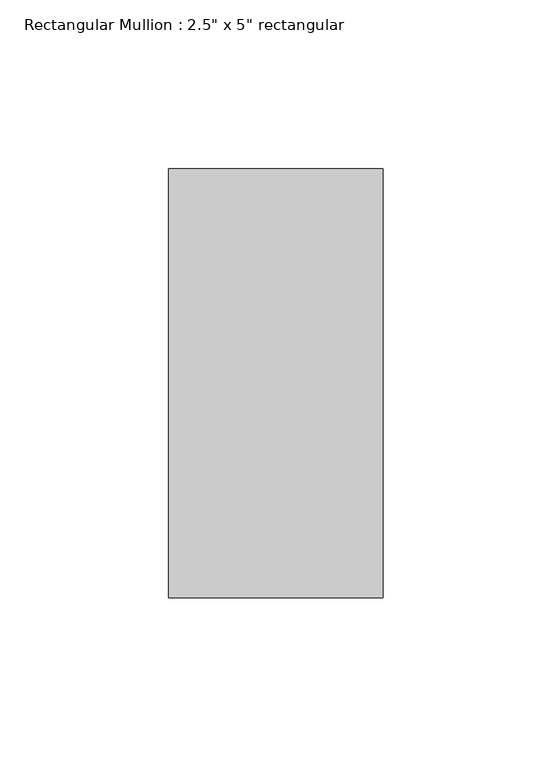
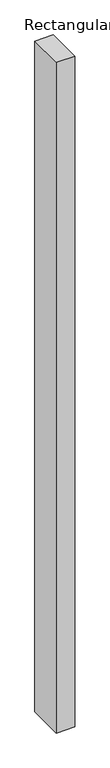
"""IFC4 building model written with IfcOpenShell, lengths in millimetres: member geometry."""

from ifc_helpers import new_model, si_unit, frame, origin, place, context, project, spatial, polyline, outline, extrude, source, transform, mapped, element, save


def member_4955b6a0(model_context):
    return source(origin(), model_context, "Body", "SweptSolid", [
        extrude(outline(polyline([(31.75, 63.5), (31.75, -63.5), (-31.75, -63.5), (-31.75, 63.5), (31.75, 63.5)])), frame((0.0, 0.0, -2444.7500002), z_axis=(0.0, 0.0, 1.0), x_axis=(1.0, 0.0, 0.0)), (0.0, 0.0, 1.0), 2444.7500002),
    ])


if __name__ == "__main__":
    model = new_model("IFC4")
    model_context = context("Model", 3, world=origin())
    ifc_project = project(units=[si_unit("LENGTHUNIT", "METRE", prefix="MILLI")], contexts=[model_context])
    site = spatial("IfcSite", under=ifc_project)
    building = spatial("IfcBuilding", under=site)
    placement = place(None, origin())
    member_shape = member_4955b6a0(model_context)
    element("IfcMember", 1, ObjectType="Rectangular Mullion : 2.5\" x 5\" rectangular", at=placement, inside=building, context=model_context, shape_type="MappedRepresentation", body=[
        mapped(member_shape, transform((0.0, 0.0, 0.0), x_axis=(1.0, 0.0, 0.0), y_axis=(0.0, 1.0, 0.0), z_axis=(0.0, 0.0, 1.0))),
    ])
    save(model, "model.ifc")
